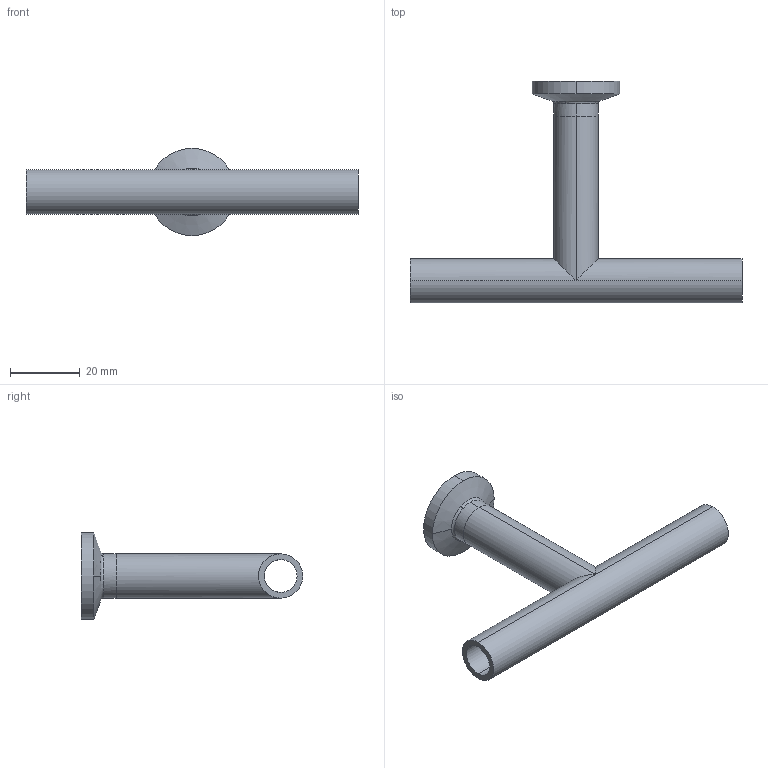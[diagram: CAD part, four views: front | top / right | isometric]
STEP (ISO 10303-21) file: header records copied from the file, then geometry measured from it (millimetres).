
FILE_DESCRIPTION (( 'STEP AP214' ), '1' );
FILE_NAME ('TE7WWC6L.5-...STEP', '2016-05-23T05:32:40', ( 'eran' ), ( '' ), 'SwSTEP 2.0', 'SolidWorks 2016', '' );
FILE_SCHEMA (( 'AUTOMOTIVE_DESIGN' ));
Length unit declared in the file: millimetre
Products named in the file (1): TE7WWC6L.5-..
Bounding box: 95.2 x 63.55 x 24.99 mm (x, y, z)
Volume: 9640.2 mm3; surface area: 11283.6 mm2
Topology: 2 solids, 2 shells, 36 faces, 88 edges, 56 vertices
Faces by surface type: cylinder 18, bspline 8, plane 6, cone 4
Entity records: 1227 total; most frequent: CARTESIAN_POINT 325, DIRECTION 194, ORIENTED_EDGE 176, EDGE_CURVE 88, AXIS2_PLACEMENT_3D 85, VERTEX_POINT 56, CIRCLE 56, EDGE_LOOP 42
